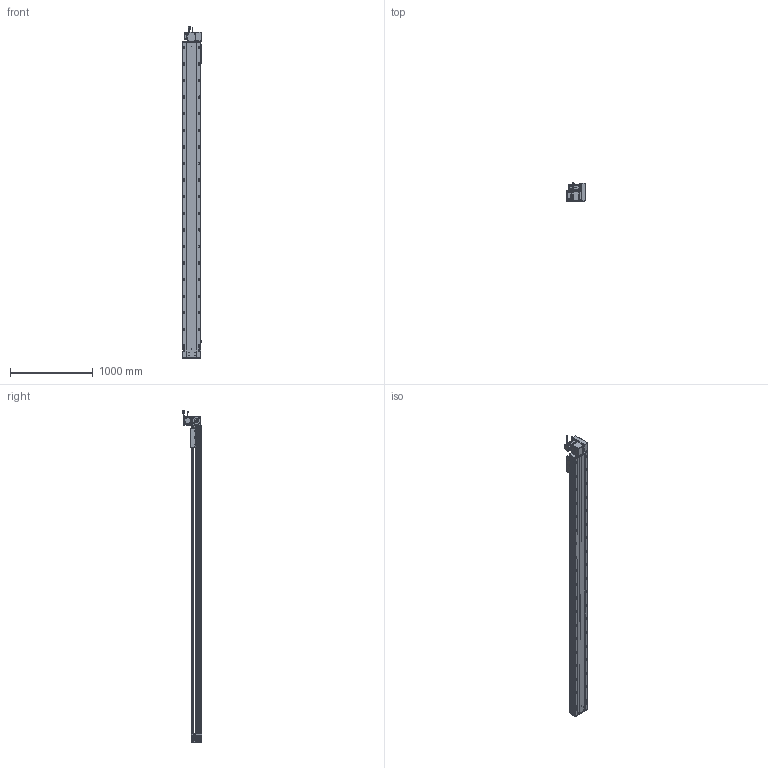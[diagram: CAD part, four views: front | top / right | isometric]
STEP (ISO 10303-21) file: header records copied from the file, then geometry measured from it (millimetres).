
FILE_DESCRIPTION (( 'STEP AP203' ), '1' );
FILE_NAME ('RY220-T-300-UR.SLDASM_3450.step', '2022-07-25T08:46:50', ( '' ), ( '' ), 'SwSTEP 2.0', 'SolidWorks 2016', '' );
FILE_SCHEMA (( 'CONFIG_CONTROL_DESIGN' ));
Length unit declared in the file: millimetre
Products named in the file (14): RY220-T-300-奻裔啣_3450; RY220-T菁釱-300_3450; RY220圉猾敕々湍臏賑輸; 怢湛750W_ECMA-CX0807ES; 覜茼ん672; RY220翋肮祭謫釱; 110A-T-肮祭謫釱傷裔; RY220翋肮祭謫裔啣; RY220-T-300-UR.SLDASM_3450; RY220-俋离672覜茼んえ; RY220-T-蛌殏萇儂假蚾啣(750W); RY220-同步轮副支撑座6304×2; 滅袉蝶18-15; RY220-T-湍謫欶(鍼踢)
Assembly tree (18 placements, depth 2):
  RY220-T-300-UR.SLDASM_3450
    RY220-T菁釱-300_3450
    RY220翋肮祭謫釱
    覜茼ん672  x3
    RY220圉猾敕々湍臏賑輸
    RY220-T-300-奻裔啣_3450
    RY220-俋离672覜茼んえ
    滅袉蝶18-15  x3
    RY220翋肮祭謫裔啣  x2
    110A-T-肮祭謫釱傷裔
    怢湛750W_ECMA-CX0807ES
    RY220-T-湍謫欶(鍼踢)
    RY220-T-蛌殏萇儂假蚾啣(750W)
    RY220-同步轮副支撑座6304×2
Bounding box: 238.7 x 231.74 x 4003.27 mm (x, y, z)
Volume: 28111799.6 mm3; surface area: 8749335.8 mm2
Topology: 19 solids, 19 shells, 3134 faces, 8679 edges, 5416 vertices
Faces by surface type: cylinder 1570, plane 1069, cone 413, bspline 56, sphere 16, torus 10
Entity records: 104659 total; most frequent: CARTESIAN_POINT 29445, ORIENTED_EDGE 15514, DIRECTION 15072, EDGE_CURVE 7757, AXIS2_PLACEMENT_3D 5472, VERTEX_POINT 5040, LINE 4128, VECTOR 4128
